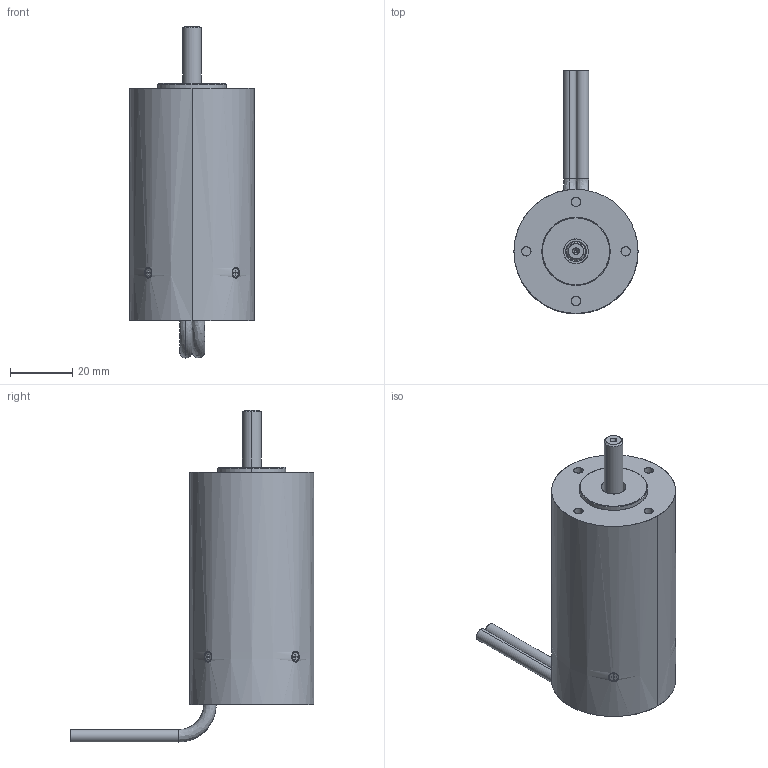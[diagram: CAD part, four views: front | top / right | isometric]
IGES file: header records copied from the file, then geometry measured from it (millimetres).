
Start section: SolidWorks IGES file using analytic representation for surfaces
Global section: file name: C:\Users\Administrator\Desktop\11.IGS; native system: SolidWorks 2016; preprocessor: SolidWorks 2016; author: Administrator; date: 180716.163321; units: millimetre
Bounding box: 40 x 78.54 x 107 mm (x, y, z)
Surface area: 15072.5 mm2 (no closed solid volume)
Topology: 0 solids, 0 shells, 243 faces, 3352 edges, 3350 vertices
Faces by surface type: bspline 171, revolution 72
